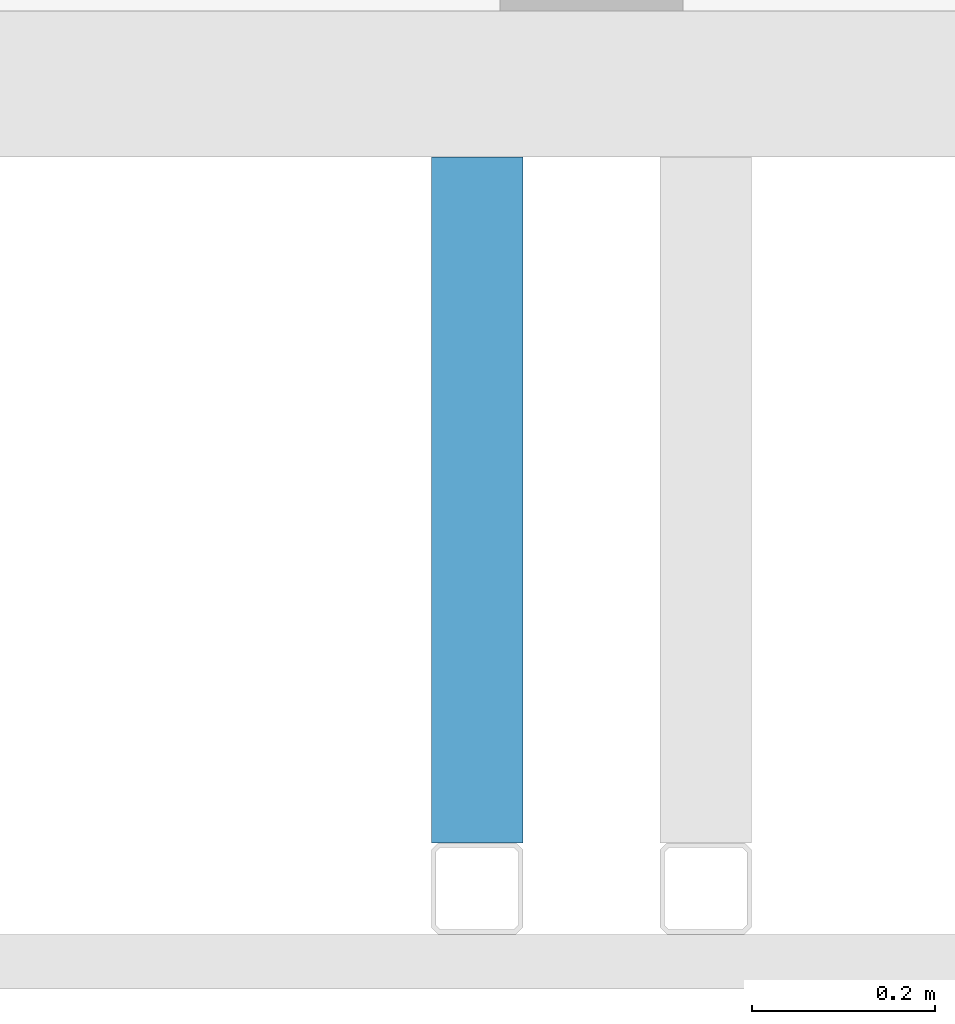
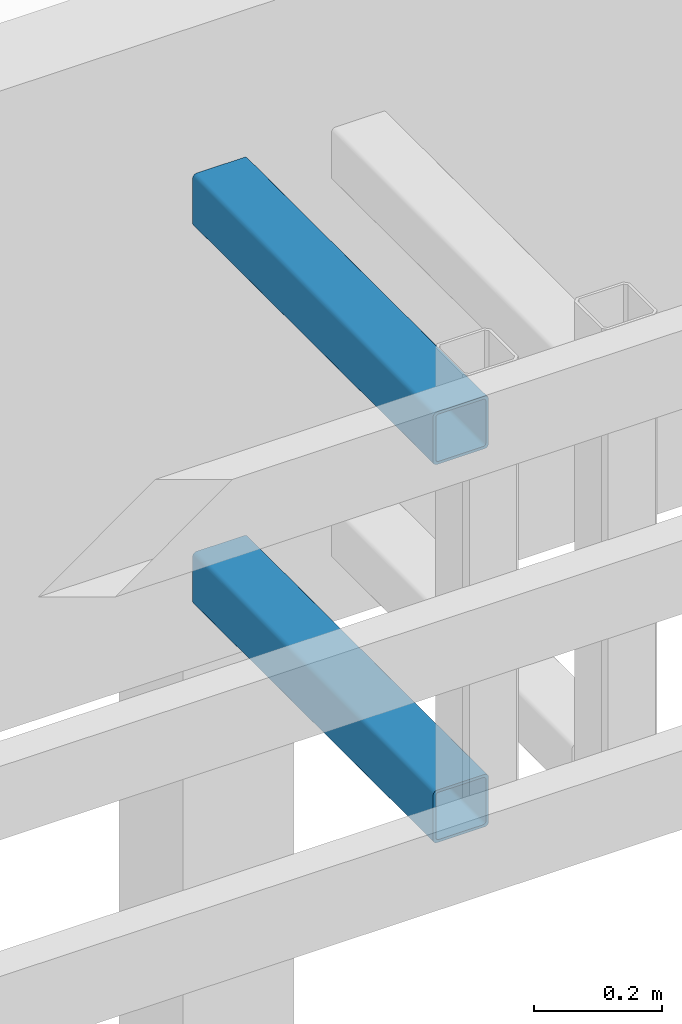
# One storey, part 28 of 44: 2 members.
"""IFC4 building model written with IfcOpenShell, lengths in metres."""

from ifc_helpers import new_model, entity, si_unit, converted_unit, derived_unit, frame, origin, place, context, subcontext, project, spatial, faceted_brep, material, element, save


model = new_model("IFC4")

# Units and contexts
model_context = context("Model", 3, precision=1e-05, world=origin())
plan_context = context("Plan", 2, precision=1e-05, world=origin())
body_context = subcontext(model_context, "Body", "Model", "MODEL_VIEW")
ifc_project = project(units=[si_unit("LENGTHUNIT", "METRE"), si_unit("AREAUNIT", "SQUARE_METRE"), si_unit("VOLUMEUNIT", "CUBIC_METRE"), si_unit("MASSUNIT", "GRAM", prefix="KILO"), converted_unit("PLANEANGLEUNIT", "DEGREE", entity("IfcPlaneAngleMeasure", 0.0174532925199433), si_unit("PLANEANGLEUNIT", "RADIAN"), dimensions=[0, 0, 0, 0, 0, 0, 0]), derived_unit("THERMALTRANSMITTANCEUNIT", [(si_unit("POWERUNIT", "WATT"), 1), (si_unit("THERMODYNAMICTEMPERATUREUNIT", "KELVIN"), -1), (si_unit("LENGTHUNIT", "METRE"), -2)]), derived_unit("VOLUMETRICFLOWRATEUNIT", [(si_unit("LENGTHUNIT", "METRE"), 3), (converted_unit("TIMEUNIT", "hour", entity("IfcTimeMeasure", 3600.0), si_unit("TIMEUNIT", "SECOND"), dimensions=[0, 0, 1, 0, 0, 0, 0]), -1), (si_unit("LENGTHUNIT", "METRE"), -1)])], contexts=[model_context, plan_context])

# Site, building, storey
site_placement = place(None, origin())
site = spatial("IfcSite", under=ifc_project, at=site_placement, Name="Site", CompositionType="ELEMENT")
building_placement = place(site_placement, origin())
building = spatial("IfcBuilding", under=site, at=building_placement, Name="Admin", CompositionType="ELEMENT")
storey_placement = place(building_placement, frame((0.0, 0.0, 3.25)))
storey = spatial("IfcBuildingStorey", under=building, at=storey_placement, Name="01-Etage1", CompositionType="ELEMENT", Elevation=3.25)

# Members
ifc_material_1 = material(Name="S235")
member_1_placement = place(storey_placement, frame((52.3748010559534, 11.1194493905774, 3.54)))
element("IfcMember", 1, at=member_1_placement, inside=storey, material=ifc_material_1, Name="Bandeau R+1", context=body_context, shape_type="Brep", body=[
    faceted_brep([(0.095, 0.0, 0.09), (0.095, 0.0, 0.01), (0.0950000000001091, 0.749999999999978, 0.01), (0.0950000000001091, 0.749999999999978, 0.09), (0.0949240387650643, 0.0, 0.0908682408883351), (0.0949240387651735, 0.749999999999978, 0.0908682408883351), (0.0946984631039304, 0.0, 0.0917101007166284), (0.0946984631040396, 0.749999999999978, 0.0917101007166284), (0.0943301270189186, 0.0, 0.0925), (0.0943301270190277, 0.749999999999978, 0.0925), (0.093830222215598, 0.0, 0.0932139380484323), (0.0938302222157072, 0.749999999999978, 0.0932139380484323), (0.0932139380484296, 1.81898940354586e-15, 0.0938302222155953), (0.0932139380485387, 0.74999999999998, 0.0938302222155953), (0.0925, 1.81898940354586e-15, 0.0943301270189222), (0.0925000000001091, 0.74999999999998, 0.0943301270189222), (0.0917101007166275, 1.81898940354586e-15, 0.0946984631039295), (0.0917101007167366, 0.74999999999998, 0.0946984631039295), (0.0908682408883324, 1.81898940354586e-15, 0.0949240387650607), (0.0908682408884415, 0.74999999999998, 0.0949240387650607), (0.09, 1.81898940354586e-15, 0.095), (0.0900000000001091, 0.74999999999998, 0.095), (0.01, 1.2732925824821e-14, 0.095), (0.0100000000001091, 0.749999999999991, 0.095), (0.00913175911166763, 1.2732925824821e-14, 0.0949240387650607), (0.00913175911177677, 0.749999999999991, 0.0949240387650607), (0.00828989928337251, 1.2732925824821e-14, 0.0946984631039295), (0.00828989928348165, 0.749999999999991, 0.0946984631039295), (0.0075, 1.2732925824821e-14, 0.0943301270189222), (0.00750000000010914, 0.749999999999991, 0.0943301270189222), (0.00678606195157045, 1.2732925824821e-14, 0.0938302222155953), (0.00678606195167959, 0.749999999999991, 0.0938302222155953), (0.00616977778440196, 1.45519152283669e-14, 0.0932139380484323), (0.0061697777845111, 0.749999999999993, 0.0932139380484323), (0.00566987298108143, 1.45519152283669e-14, 0.0925), (0.00566987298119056, 0.749999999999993, 0.0925), (0.00530153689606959, 1.45519152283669e-14, 0.0917101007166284), (0.00530153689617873, 0.749999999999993, 0.0917101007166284), (0.00507596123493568, 1.45519152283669e-14, 0.0908682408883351), (0.00507596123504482, 0.749999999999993, 0.0908682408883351), (0.005, 1.45519152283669e-14, 0.09), (0.00500000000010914, 0.749999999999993, 0.09), (0.005, 1.45519152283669e-14, 0.01), (0.00500000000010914, 0.749999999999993, 0.01), (0.00507596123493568, 1.45519152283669e-14, 0.00913175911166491), (0.00507596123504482, 0.749999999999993, 0.00913175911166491), (0.00530153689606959, 1.45519152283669e-14, 0.0082898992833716), (0.00530153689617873, 0.749999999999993, 0.0082898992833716), (0.00566987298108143, 1.45519152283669e-14, 0.0075), (0.00566987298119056, 0.749999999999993, 0.0075), (0.00616977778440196, 1.45519152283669e-14, 0.00678606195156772), (0.0061697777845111, 0.749999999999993, 0.00678606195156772), (0.00678606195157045, 1.2732925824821e-14, 0.00616977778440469), (0.00678606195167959, 0.749999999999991, 0.00616977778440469), (0.0075, 1.2732925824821e-14, 0.00566987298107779), (0.00750000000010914, 0.749999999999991, 0.00566987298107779), (0.00828989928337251, 1.2732925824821e-14, 0.0053015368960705), (0.00828989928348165, 0.749999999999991, 0.0053015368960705), (0.00913175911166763, 1.2732925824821e-14, 0.00507596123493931), (0.00913175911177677, 0.749999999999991, 0.00507596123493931), (0.01, 1.2732925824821e-14, 0.005), (0.0100000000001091, 0.749999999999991, 0.005), (0.09, 1.81898940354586e-15, 0.005), (0.0900000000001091, 0.74999999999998, 0.005), (0.0908682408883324, 1.81898940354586e-15, 0.00507596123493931), (0.0908682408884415, 0.74999999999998, 0.00507596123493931), (0.0917101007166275, 1.81898940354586e-15, 0.0053015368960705), (0.0917101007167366, 0.74999999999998, 0.0053015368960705), (0.0925, 1.81898940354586e-15, 0.00566987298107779), (0.0925000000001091, 0.74999999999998, 0.00566987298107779), (0.0932139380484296, 1.81898940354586e-15, 0.00616977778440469), (0.0932139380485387, 0.74999999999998, 0.00616977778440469), (0.093830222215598, 0.0, 0.00678606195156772), (0.0938302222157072, 0.749999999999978, 0.00678606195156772), (0.0943301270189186, 0.0, 0.0075), (0.0943301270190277, 0.749999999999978, 0.0075), (0.0946984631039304, 0.0, 0.0082898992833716), (0.0946984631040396, 0.749999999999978, 0.0082898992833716), (0.0949240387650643, 0.0, 0.00913175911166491), (0.0949240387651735, 0.749999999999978, 0.00913175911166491), (0.0075, 1.2732925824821e-14, 0.1), (0.00619763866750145, 1.45519152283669e-14, 0.0998860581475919), (0.00619763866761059, 0.749999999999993, 0.0998860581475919), (0.00750000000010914, 0.749999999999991, 0.1), (0.0925, 1.81898940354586e-15, 0.1), (0.0925000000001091, 0.74999999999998, 0.1), (0.0938023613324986, 0.0, 0.0998860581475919), (0.0938023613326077, 0.749999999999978, 0.0998860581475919), (0.0950651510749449, 0.0, 0.0995476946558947), (0.095065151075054, 0.749999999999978, 0.0995476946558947), (0.09625, 0.0, 0.0989951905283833), (0.0962500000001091, 0.749999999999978, 0.0989951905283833), (0.0973209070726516, 0.0, 0.0982453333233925), (0.0973209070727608, 0.749999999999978, 0.0982453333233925), (0.0982453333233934, 0.0, 0.0973209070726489), (0.0982453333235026, 0.749999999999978, 0.0973209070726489), (0.0989951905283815, 0.0, 0.09625), (0.0989951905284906, 0.749999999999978, 0.09625), (0.099547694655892, 0.0, 0.0950651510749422), (0.0995476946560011, 0.749999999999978, 0.0950651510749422), (0.0998860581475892, 0.0, 0.0938023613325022), (0.0998860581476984, 0.749999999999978, 0.0938023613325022), (0.1, 0.0, 0.0925), (0.100000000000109, 0.749999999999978, 0.0925), (0.0998860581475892, 0.0, 0.00619763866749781), (0.1, 0.0, 0.0075), (0.100000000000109, 0.749999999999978, 0.0075), (0.0998860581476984, 0.749999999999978, 0.00619763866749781), (0.099547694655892, 0.0, 0.00493484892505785), (0.0995476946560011, 0.749999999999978, 0.00493484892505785), (0.0989951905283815, 0.0, 0.00375), (0.0989951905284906, 0.749999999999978, 0.00375), (0.0982453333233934, 0.0, 0.00267909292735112), (0.0982453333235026, 0.749999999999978, 0.00267909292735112), (0.0973209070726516, 0.0, 0.00175466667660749), (0.0973209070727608, 0.749999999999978, 0.00175466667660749), (0.09625, 0.0, 0.00100480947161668), (0.0962500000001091, 0.749999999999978, 0.00100480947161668), (0.0950651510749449, 0.0, 0.000452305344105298), (0.095065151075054, 0.749999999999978, 0.000452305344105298), (0.0938023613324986, 0.0, 0.000113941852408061), (0.0938023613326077, 0.749999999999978, 0.000113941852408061), (0.0925, 1.81898940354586e-15, 0.0), (0.0925000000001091, 0.74999999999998, 0.0), (0.0075, 1.2732925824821e-14, 0.0), (0.00750000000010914, 0.749999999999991, 0.0), (0.00619763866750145, 1.45519152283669e-14, 0.000113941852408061), (0.00619763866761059, 0.749999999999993, 0.000113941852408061), (0.00493484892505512, 1.45519152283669e-14, 0.000452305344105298), (0.00493484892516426, 0.749999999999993, 0.000452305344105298), (0.00375, 1.45519152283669e-14, 0.00100480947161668), (0.00375000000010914, 0.749999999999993, 0.00100480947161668), (0.00267909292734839, 1.45519152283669e-14, 0.00175466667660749), (0.00267909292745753, 0.749999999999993, 0.00175466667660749), (0.00175466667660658, 1.45519152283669e-14, 0.00267909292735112), (0.00175466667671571, 0.749999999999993, 0.00267909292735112), (0.0010048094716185, 1.45519152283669e-14, 0.00375), (0.00100480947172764, 0.749999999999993, 0.00375), (0.000452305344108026, 1.45519152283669e-14, 0.00493484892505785), (0.000452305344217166, 0.749999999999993, 0.00493484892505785), (0.00011394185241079, 1.45519152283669e-14, 0.00619763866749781), (0.000113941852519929, 0.749999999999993, 0.00619763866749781), (0.0, 0.0, 0.0075), (1.09139364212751e-13, 0.749999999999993, 0.0075), (0.00011394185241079, 1.45519152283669e-14, 0.0938023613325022), (0.0, -1.81898940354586e-15, 0.0925), (1.09139364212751e-13, 0.749999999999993, 0.0925), (0.000113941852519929, 0.749999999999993, 0.0938023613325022), (0.000452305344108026, 1.45519152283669e-14, 0.0950651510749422), (0.000452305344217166, 0.749999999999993, 0.0950651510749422), (0.0010048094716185, 1.45519152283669e-14, 0.09625), (0.00100480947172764, 0.749999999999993, 0.09625), (0.00175466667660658, 1.45519152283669e-14, 0.0973209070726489), (0.00175466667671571, 0.749999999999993, 0.0973209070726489), (0.00267909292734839, 1.45519152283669e-14, 0.0982453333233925), (0.00267909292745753, 0.749999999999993, 0.0982453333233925), (0.00375, 1.45519152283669e-14, 0.0989951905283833), (0.00375000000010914, 0.749999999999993, 0.0989951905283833), (0.00493484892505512, 1.45519152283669e-14, 0.0995476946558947), (0.00493484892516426, 0.749999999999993, 0.0995476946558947)], [[[0, 1, 2, 3]], [[4, 0, 3, 5]], [[6, 4, 5, 7]], [[8, 6, 7, 9]], [[10, 8, 9, 11]], [[12, 10, 11, 13]], [[14, 12, 13, 15]], [[16, 14, 15, 17]], [[18, 16, 17, 19]], [[20, 18, 19, 21]], [[22, 20, 21, 23]], [[24, 22, 23, 25]], [[26, 24, 25, 27]], [[28, 26, 27, 29]], [[30, 28, 29, 31]], [[32, 30, 31, 33]], [[34, 32, 33, 35]], [[36, 34, 35, 37]], [[38, 36, 37, 39]], [[40, 38, 39, 41]], [[42, 40, 41, 43]], [[44, 42, 43, 45]], [[46, 44, 45, 47]], [[48, 46, 47, 49]], [[50, 48, 49, 51]], [[52, 50, 51, 53]], [[54, 52, 53, 55]], [[56, 54, 55, 57]], [[58, 56, 57, 59]], [[60, 58, 59, 61]], [[62, 60, 61, 63]], [[64, 62, 63, 65]], [[66, 64, 65, 67]], [[68, 66, 67, 69]], [[70, 68, 69, 71]], [[72, 70, 71, 73]], [[74, 72, 73, 75]], [[76, 74, 75, 77]], [[78, 76, 77, 79]], [[1, 78, 79, 2]], [[80, 81, 82, 83]], [[84, 80, 83, 85]], [[86, 84, 85, 87]], [[88, 86, 87, 89]], [[90, 88, 89, 91]], [[92, 90, 91, 93]], [[94, 92, 93, 95]], [[96, 94, 95, 97]], [[98, 96, 97, 99]], [[100, 98, 99, 101]], [[102, 100, 101, 103]], [[104, 105, 106, 107]], [[108, 104, 107, 109]], [[110, 108, 109, 111]], [[112, 110, 111, 113]], [[114, 112, 113, 115]], [[116, 114, 115, 117]], [[118, 116, 117, 119]], [[120, 118, 119, 121]], [[122, 120, 121, 123]], [[124, 122, 123, 125]], [[126, 124, 125, 127]], [[128, 126, 127, 129]], [[130, 128, 129, 131]], [[132, 130, 131, 133]], [[134, 132, 133, 135]], [[136, 134, 135, 137]], [[138, 136, 137, 139]], [[140, 138, 139, 141]], [[142, 140, 141, 143]], [[144, 145, 146, 147]], [[148, 144, 147, 149]], [[150, 148, 149, 151]], [[152, 150, 151, 153]], [[154, 152, 153, 155]], [[156, 154, 155, 157]], [[158, 156, 157, 159]], [[81, 158, 159, 82]], [[146, 143, 141, 139, 137, 135, 133, 131, 129, 127, 125, 123, 121, 119, 117, 115, 113, 111, 109, 107, 106, 103, 101, 99, 97, 95, 93, 91, 89, 87, 85, 83, 82, 159, 157, 155, 153, 151, 149, 147], [2, 79, 77, 75, 73, 71, 69, 67, 65, 63, 61, 59, 57, 55, 53, 51, 49, 47, 45, 43, 41, 39, 37, 35, 33, 31, 29, 27, 25, 23, 21, 19, 17, 15, 13, 11, 9, 7, 5, 3]], [[103, 106, 105, 102]], [[102, 105, 104, 108, 110, 112, 114, 116, 118, 120, 122, 124, 126, 128, 130, 132, 134, 136, 138, 140, 142, 145, 144, 148, 150, 152, 154, 156, 158, 81, 80, 84, 86, 88, 90, 92, 94, 96, 98, 100], [1, 0, 4, 6, 8, 10, 12, 14, 16, 18, 20, 22, 24, 26, 28, 30, 32, 34, 36, 38, 40, 42, 44, 46, 48, 50, 52, 54, 56, 58, 60, 62, 64, 66, 68, 70, 72, 74, 76, 78]], [[145, 142, 143, 146]]], orient=[[False], [False], [False], [False], [False], [False], [False], [False], [False], [False], [False], [False], [False], [False], [False], [False], [False], [False], [False], [False], [False], [False], [False], [False], [False], [False], [False], [False], [False], [False], [False], [False], [False], [False], [False], [False], [False], [False], [False], [False], [False], [False], [False], [False], [False], [False], [False], [False], [False], [False], [False], [False], [False], [False], [False], [False], [False], [False], [False], [False], [False], [False], [False], [False], [False], [False], [False], [False], [False], [False], [False], [False], [False], [False], [False], [False], [False], [False], [False, False], [False], [False, False], [False]]),
])
ifc_material_2 = material(Name="S235")
member_2_placement = place(storey_placement, frame((52.3748010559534, 11.1194493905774, 2.82)))
element("IfcMember", 2, at=member_2_placement, inside=storey, material=ifc_material_2, Name="Bandeau R+1", context=body_context, shape_type="Brep", body=[
    faceted_brep([(0.095, 0.0, 0.09), (0.095, 0.0, 0.01), (0.0950000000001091, 0.749999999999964, 0.01), (0.0950000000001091, 0.749999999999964, 0.09), (0.0949240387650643, 0.0, 0.0908682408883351), (0.0949240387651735, 0.749999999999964, 0.0908682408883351), (0.0946984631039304, 0.0, 0.0917101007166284), (0.0946984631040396, 0.749999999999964, 0.0917101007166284), (0.0943301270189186, 0.0, 0.0925), (0.0943301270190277, 0.749999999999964, 0.0925), (0.093830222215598, 0.0, 0.0932139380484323), (0.0938302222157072, 0.749999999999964, 0.0932139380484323), (0.0932139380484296, 1.81898940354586e-15, 0.0938302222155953), (0.0932139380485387, 0.749999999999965, 0.0938302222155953), (0.0925, 1.81898940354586e-15, 0.0943301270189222), (0.0925000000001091, 0.749999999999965, 0.0943301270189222), (0.0917101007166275, 1.81898940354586e-15, 0.0946984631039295), (0.0917101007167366, 0.749999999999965, 0.0946984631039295), (0.0908682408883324, 1.81898940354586e-15, 0.0949240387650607), (0.0908682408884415, 0.749999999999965, 0.0949240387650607), (0.09, 1.81898940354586e-15, 0.095), (0.0900000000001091, 0.749999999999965, 0.095), (0.01, 1.2732925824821e-14, 0.095), (0.0100000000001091, 0.749999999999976, 0.095), (0.00913175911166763, 1.2732925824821e-14, 0.0949240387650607), (0.00913175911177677, 0.749999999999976, 0.0949240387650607), (0.00828989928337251, 1.2732925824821e-14, 0.0946984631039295), (0.00828989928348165, 0.749999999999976, 0.0946984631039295), (0.0075, 1.2732925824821e-14, 0.0943301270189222), (0.00750000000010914, 0.749999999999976, 0.0943301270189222), (0.00678606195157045, 1.2732925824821e-14, 0.0938302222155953), (0.00678606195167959, 0.749999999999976, 0.0938302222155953), (0.00616977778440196, 1.45519152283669e-14, 0.0932139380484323), (0.0061697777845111, 0.749999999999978, 0.0932139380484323), (0.00566987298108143, 1.45519152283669e-14, 0.0925), (0.00566987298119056, 0.749999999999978, 0.0925), (0.00530153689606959, 1.45519152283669e-14, 0.0917101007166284), (0.00530153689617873, 0.749999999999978, 0.0917101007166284), (0.00507596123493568, 1.45519152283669e-14, 0.0908682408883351), (0.00507596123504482, 0.749999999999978, 0.0908682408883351), (0.005, 1.45519152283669e-14, 0.09), (0.00500000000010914, 0.749999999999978, 0.09), (0.005, 1.45519152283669e-14, 0.01), (0.00500000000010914, 0.749999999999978, 0.01), (0.00507596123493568, 1.45519152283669e-14, 0.00913175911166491), (0.00507596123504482, 0.749999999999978, 0.00913175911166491), (0.00530153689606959, 1.45519152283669e-14, 0.0082898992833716), (0.00530153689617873, 0.749999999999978, 0.0082898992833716), (0.00566987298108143, 1.45519152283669e-14, 0.0075), (0.00566987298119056, 0.749999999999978, 0.0075), (0.00616977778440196, 1.45519152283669e-14, 0.00678606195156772), (0.0061697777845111, 0.749999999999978, 0.00678606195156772), (0.00678606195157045, 1.2732925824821e-14, 0.00616977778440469), (0.00678606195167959, 0.749999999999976, 0.00616977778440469), (0.0075, 1.2732925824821e-14, 0.00566987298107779), (0.00750000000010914, 0.749999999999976, 0.00566987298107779), (0.00828989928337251, 1.2732925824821e-14, 0.0053015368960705), (0.00828989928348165, 0.749999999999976, 0.0053015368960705), (0.00913175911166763, 1.2732925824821e-14, 0.00507596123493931), (0.00913175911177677, 0.749999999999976, 0.00507596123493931), (0.01, 1.2732925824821e-14, 0.005), (0.0100000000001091, 0.749999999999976, 0.005), (0.09, 1.81898940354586e-15, 0.005), (0.0900000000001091, 0.749999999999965, 0.005), (0.0908682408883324, 1.81898940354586e-15, 0.00507596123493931), (0.0908682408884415, 0.749999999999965, 0.00507596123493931), (0.0917101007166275, 1.81898940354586e-15, 0.0053015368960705), (0.0917101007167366, 0.749999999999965, 0.0053015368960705), (0.0925, 1.81898940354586e-15, 0.00566987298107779), (0.0925000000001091, 0.749999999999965, 0.00566987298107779), (0.0932139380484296, 1.81898940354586e-15, 0.00616977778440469), (0.0932139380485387, 0.749999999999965, 0.00616977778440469), (0.093830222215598, 0.0, 0.00678606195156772), (0.0938302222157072, 0.749999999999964, 0.00678606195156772), (0.0943301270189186, 0.0, 0.0075), (0.0943301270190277, 0.749999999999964, 0.0075), (0.0946984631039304, 0.0, 0.0082898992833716), (0.0946984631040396, 0.749999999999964, 0.0082898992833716), (0.0949240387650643, 0.0, 0.00913175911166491), (0.0949240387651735, 0.749999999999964, 0.00913175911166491), (0.0075, 1.2732925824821e-14, 0.1), (0.00619763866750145, 1.45519152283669e-14, 0.0998860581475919), (0.00619763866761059, 0.749999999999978, 0.0998860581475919), (0.00750000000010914, 0.749999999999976, 0.1), (0.0925, 1.81898940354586e-15, 0.1), (0.0925000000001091, 0.749999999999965, 0.1), (0.0938023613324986, 0.0, 0.0998860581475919), (0.0938023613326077, 0.749999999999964, 0.0998860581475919), (0.0950651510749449, 0.0, 0.0995476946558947), (0.095065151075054, 0.749999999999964, 0.0995476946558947), (0.09625, 0.0, 0.0989951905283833), (0.0962500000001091, 0.749999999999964, 0.0989951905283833), (0.0973209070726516, 0.0, 0.0982453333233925), (0.0973209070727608, 0.749999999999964, 0.0982453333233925), (0.0982453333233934, 0.0, 0.0973209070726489), (0.0982453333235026, 0.749999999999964, 0.0973209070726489), (0.0989951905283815, 0.0, 0.09625), (0.0989951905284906, 0.749999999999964, 0.09625), (0.099547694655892, 0.0, 0.0950651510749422), (0.0995476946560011, 0.749999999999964, 0.0950651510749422), (0.0998860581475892, 0.0, 0.0938023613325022), (0.0998860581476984, 0.749999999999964, 0.0938023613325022), (0.1, 0.0, 0.0925), (0.100000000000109, 0.749999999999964, 0.0925), (0.0998860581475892, 0.0, 0.00619763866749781), (0.1, 0.0, 0.0075), (0.100000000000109, 0.749999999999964, 0.0075), (0.0998860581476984, 0.749999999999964, 0.00619763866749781), (0.099547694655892, 0.0, 0.00493484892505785), (0.0995476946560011, 0.749999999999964, 0.00493484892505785), (0.0989951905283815, 0.0, 0.00375), (0.0989951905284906, 0.749999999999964, 0.00375), (0.0982453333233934, 0.0, 0.00267909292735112), (0.0982453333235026, 0.749999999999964, 0.00267909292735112), (0.0973209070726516, 0.0, 0.00175466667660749), (0.0973209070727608, 0.749999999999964, 0.00175466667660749), (0.09625, 0.0, 0.00100480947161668), (0.0962500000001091, 0.749999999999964, 0.00100480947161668), (0.0950651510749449, 0.0, 0.000452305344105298), (0.095065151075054, 0.749999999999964, 0.000452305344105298), (0.0938023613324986, 0.0, 0.000113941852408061), (0.0938023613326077, 0.749999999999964, 0.000113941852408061), (0.0925, 1.81898940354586e-15, 0.0), (0.0925000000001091, 0.749999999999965, 0.0), (0.0075, 1.2732925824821e-14, 0.0), (0.00750000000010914, 0.749999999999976, 0.0), (0.00619763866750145, 1.45519152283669e-14, 0.000113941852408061), (0.00619763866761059, 0.749999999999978, 0.000113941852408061), (0.00493484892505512, 1.45519152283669e-14, 0.000452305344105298), (0.00493484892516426, 0.749999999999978, 0.000452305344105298), (0.00375, 1.45519152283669e-14, 0.00100480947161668), (0.00375000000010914, 0.749999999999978, 0.00100480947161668), (0.00267909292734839, 1.45519152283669e-14, 0.00175466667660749), (0.00267909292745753, 0.749999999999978, 0.00175466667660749), (0.00175466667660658, 1.45519152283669e-14, 0.00267909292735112), (0.00175466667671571, 0.749999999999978, 0.00267909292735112), (0.0010048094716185, 1.45519152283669e-14, 0.00375), (0.00100480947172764, 0.749999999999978, 0.00375), (0.000452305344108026, 1.45519152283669e-14, 0.00493484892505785), (0.000452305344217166, 0.749999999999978, 0.00493484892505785), (0.00011394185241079, 1.45519152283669e-14, 0.00619763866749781), (0.000113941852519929, 0.749999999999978, 0.00619763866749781), (0.0, 0.0, 0.0075), (1.09139364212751e-13, 0.749999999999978, 0.0075), (0.00011394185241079, 1.45519152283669e-14, 0.0938023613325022), (0.0, 0.0, 0.0925), (1.09139364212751e-13, 0.749999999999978, 0.0925), (0.000113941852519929, 0.749999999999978, 0.0938023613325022), (0.000452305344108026, 1.45519152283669e-14, 0.0950651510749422), (0.000452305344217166, 0.749999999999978, 0.0950651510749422), (0.0010048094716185, 1.45519152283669e-14, 0.09625), (0.00100480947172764, 0.749999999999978, 0.09625), (0.00175466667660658, 1.45519152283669e-14, 0.0973209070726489), (0.00175466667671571, 0.749999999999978, 0.0973209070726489), (0.00267909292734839, 1.45519152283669e-14, 0.0982453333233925), (0.00267909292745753, 0.749999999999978, 0.0982453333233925), (0.00375, 1.45519152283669e-14, 0.0989951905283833), (0.00375000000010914, 0.749999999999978, 0.0989951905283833), (0.00493484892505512, 1.45519152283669e-14, 0.0995476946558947), (0.00493484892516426, 0.749999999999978, 0.0995476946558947)], [[[0, 1, 2, 3]], [[4, 0, 3, 5]], [[6, 4, 5, 7]], [[8, 6, 7, 9]], [[10, 8, 9, 11]], [[12, 10, 11, 13]], [[14, 12, 13, 15]], [[16, 14, 15, 17]], [[18, 16, 17, 19]], [[20, 18, 19, 21]], [[22, 20, 21, 23]], [[24, 22, 23, 25]], [[26, 24, 25, 27]], [[28, 26, 27, 29]], [[30, 28, 29, 31]], [[32, 30, 31, 33]], [[34, 32, 33, 35]], [[36, 34, 35, 37]], [[38, 36, 37, 39]], [[40, 38, 39, 41]], [[42, 40, 41, 43]], [[44, 42, 43, 45]], [[46, 44, 45, 47]], [[48, 46, 47, 49]], [[50, 48, 49, 51]], [[52, 50, 51, 53]], [[54, 52, 53, 55]], [[56, 54, 55, 57]], [[58, 56, 57, 59]], [[60, 58, 59, 61]], [[62, 60, 61, 63]], [[64, 62, 63, 65]], [[66, 64, 65, 67]], [[68, 66, 67, 69]], [[70, 68, 69, 71]], [[72, 70, 71, 73]], [[74, 72, 73, 75]], [[76, 74, 75, 77]], [[78, 76, 77, 79]], [[1, 78, 79, 2]], [[80, 81, 82, 83]], [[84, 80, 83, 85]], [[86, 84, 85, 87]], [[88, 86, 87, 89]], [[90, 88, 89, 91]], [[92, 90, 91, 93]], [[94, 92, 93, 95]], [[96, 94, 95, 97]], [[98, 96, 97, 99]], [[100, 98, 99, 101]], [[102, 100, 101, 103]], [[104, 105, 106, 107]], [[108, 104, 107, 109]], [[110, 108, 109, 111]], [[112, 110, 111, 113]], [[114, 112, 113, 115]], [[116, 114, 115, 117]], [[118, 116, 117, 119]], [[120, 118, 119, 121]], [[122, 120, 121, 123]], [[124, 122, 123, 125]], [[126, 124, 125, 127]], [[128, 126, 127, 129]], [[130, 128, 129, 131]], [[132, 130, 131, 133]], [[134, 132, 133, 135]], [[136, 134, 135, 137]], [[138, 136, 137, 139]], [[140, 138, 139, 141]], [[142, 140, 141, 143]], [[144, 145, 146, 147]], [[148, 144, 147, 149]], [[150, 148, 149, 151]], [[152, 150, 151, 153]], [[154, 152, 153, 155]], [[156, 154, 155, 157]], [[158, 156, 157, 159]], [[81, 158, 159, 82]], [[146, 143, 141, 139, 137, 135, 133, 131, 129, 127, 125, 123, 121, 119, 117, 115, 113, 111, 109, 107, 106, 103, 101, 99, 97, 95, 93, 91, 89, 87, 85, 83, 82, 159, 157, 155, 153, 151, 149, 147], [2, 79, 77, 75, 73, 71, 69, 67, 65, 63, 61, 59, 57, 55, 53, 51, 49, 47, 45, 43, 41, 39, 37, 35, 33, 31, 29, 27, 25, 23, 21, 19, 17, 15, 13, 11, 9, 7, 5, 3]], [[103, 106, 105, 102]], [[102, 105, 104, 108, 110, 112, 114, 116, 118, 120, 122, 124, 126, 128, 130, 132, 134, 136, 138, 140, 142, 145, 144, 148, 150, 152, 154, 156, 158, 81, 80, 84, 86, 88, 90, 92, 94, 96, 98, 100], [1, 0, 4, 6, 8, 10, 12, 14, 16, 18, 20, 22, 24, 26, 28, 30, 32, 34, 36, 38, 40, 42, 44, 46, 48, 50, 52, 54, 56, 58, 60, 62, 64, 66, 68, 70, 72, 74, 76, 78]], [[145, 142, 143, 146]]], orient=[[False], [False], [False], [False], [False], [False], [False], [False], [False], [False], [False], [False], [False], [False], [False], [False], [False], [False], [False], [False], [False], [False], [False], [False], [False], [False], [False], [False], [False], [False], [False], [False], [False], [False], [False], [False], [False], [False], [False], [False], [False], [False], [False], [False], [False], [False], [False], [False], [False], [False], [False], [False], [False], [False], [False], [False], [False], [False], [False], [False], [False], [False], [False], [False], [False], [False], [False], [False], [False], [False], [False], [False], [False], [False], [False], [False], [False], [False], [False, False], [False], [False, False], [False]]),
])

save(model, "model.ifc")
